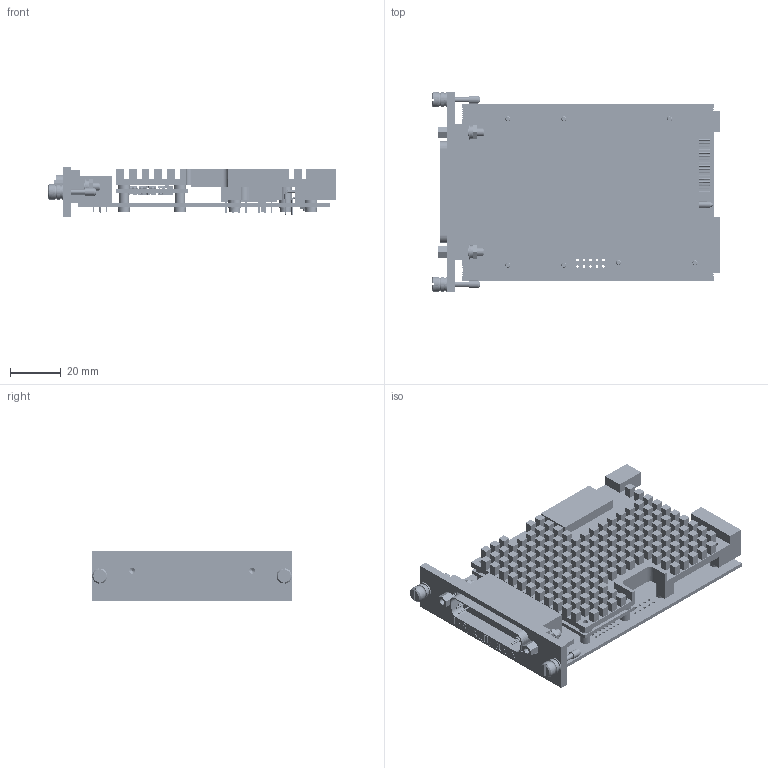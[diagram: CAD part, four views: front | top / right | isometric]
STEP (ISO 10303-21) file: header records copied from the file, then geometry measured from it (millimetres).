
FILE_DESCRIPTION(('STEP AP203'), '1');
FILE_NAME('帎迗.468155.008 沓劌錪 眝3_氈柉306', '', ('UNSPECIFIED'), ('UNSPECIFIED'), 'C3D Converter', 'C3D Toolkit', '');
FILE_SCHEMA(('CONFIG_CONTROL_DESIGN'));
Length unit declared in the file: millimetre
Products named in the file (1): КМНТ.468155.008
Bounding box: 113.29 x 78.5 x 19.6 mm (x, y, z)
Volume: 53748.5 mm3; surface area: 55295.2 mm2
Topology: 185 solids, 185 shells, 24688 faces, 59815 edges, 35968 vertices
Faces by surface type: plane 11910, cylinder 8916, bspline 1975, sphere 778, torus 539, revolution 520, cone 50
Full cylindrical faces by diameter (mm): 0.25 x20, 0.388 x3, 0.6 x43, 0.7 x12, 0.8 x17, 1 x127, 1.1 x7, 1.4 x2, 1.6 x2, 2 x2, 2.013 x7, 2.362 x2, 2.459 x2, 2.49 x2, 2.5 x6, 2.7 x10, 2.9 x12, 3 x2, 3.175 x4, 3.2 x4, 3.4 x2, 4 x4, 4.5 x7, 5 x14, 6 x8
Entity records: 1187690 total; most frequent: CARTESIAN_POINT 452808, ORIENTED_EDGE 117286, DIRECTION 98558, EDGE_CURVE 58643, VERTEX_POINT 35953, LINE 34880, VECTOR 34880, AXIS2_PLACEMENT_3D 31579
